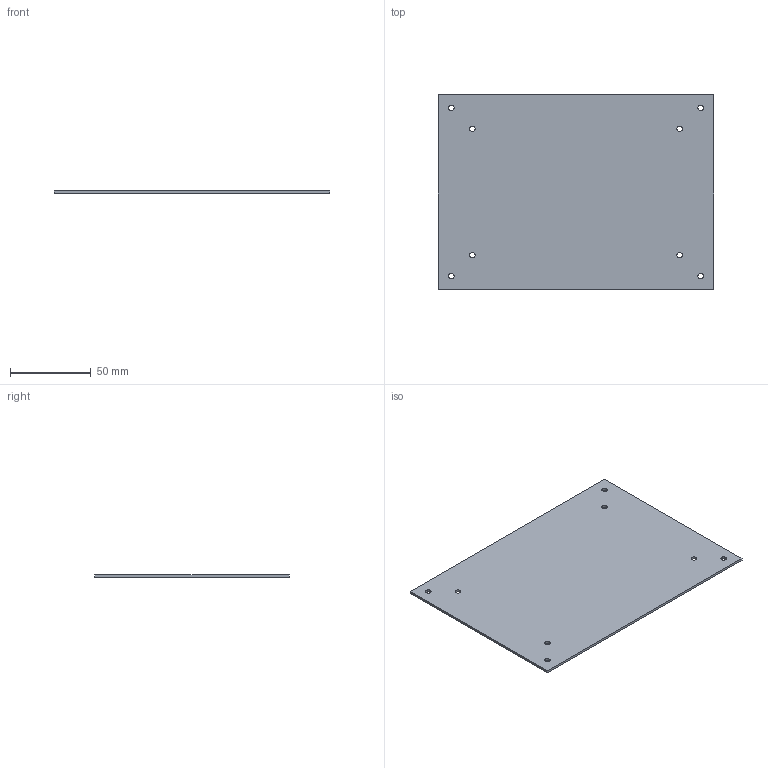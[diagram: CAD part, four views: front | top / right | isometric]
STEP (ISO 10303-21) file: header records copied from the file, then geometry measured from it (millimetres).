
FILE_DESCRIPTION(('Open CASCADE Model'),'2;1');
FILE_NAME('Open CASCADE Shape Model','2026-10-28T07:21:37',('Author'),( 'Open CASCADE'),'Open CASCADE STEP processor 7.8','Open CASCADE 7.8' ,'Unknown');
FILE_SCHEMA(('AUTOMOTIVE_DESIGN { 1 0 10303 214 1 1 1 1 }'));
Length unit declared in the file: millimetre
Products named in the file (1): Open CASCADE STEP translator 7.8 8
Bounding box: 170 x 120 x 1.5 mm (x, y, z)
Volume: 30491 mm3; surface area: 41652.9 mm2
Topology: 1 solids, 1 shells, 14 faces, 36 edges, 24 vertices
Faces by surface type: cylinder 8, plane 6
Full cylindrical faces by diameter (mm): 3.4 x8
Entity records: 946 total; most frequent: DIRECTION 154, CARTESIAN_POINT 147, LINE 76, VECTOR 76, ORIENTED_EDGE 72, PCURVE 72, DEFINITIONAL_REPRESENTATION 72, EDGE_CURVE 36
